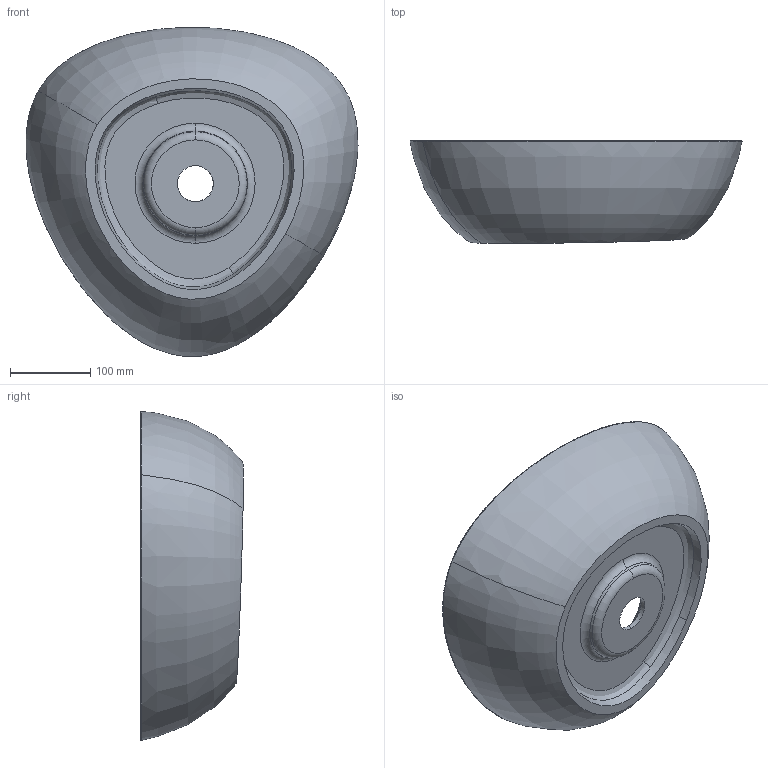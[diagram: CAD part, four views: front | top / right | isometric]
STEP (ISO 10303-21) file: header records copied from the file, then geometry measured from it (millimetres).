
FILE_DESCRIPTION (( 'STEP AP203' ), '1' );
FILE_NAME ('Oviedo Bowl 3D.STEP', '2023-02-13T15:43:19', ( 'HP Inc.' ), ( 'HP Inc.' ), 'SwSTEP 2.0', 'SolidWorks 2021', '' );
FILE_SCHEMA (( 'CONFIG_CONTROL_DESIGN' ));
Length unit declared in the file: millimetre
Products named in the file (1): Oviedo Bowl 3D
Bounding box: 414.46 x 128.28 x 410.84 mm (x, y, z)
Volume: 3055230.1 mm3; surface area: 426856.3 mm2
Topology: 1 solids, 1 shells, 67 faces, 154 edges, 93 vertices
Faces by surface type: bspline 18, torus 18, cylinder 17, plane 10, cone 4
Entity records: 21417 total; most frequent: CARTESIAN_POINT 19921, ORIENTED_EDGE 308, DIRECTION 281, EDGE_CURVE 154, AXIS2_PLACEMENT_3D 124, VERTEX_POINT 93, CIRCLE 74, EDGE_LOOP 73
